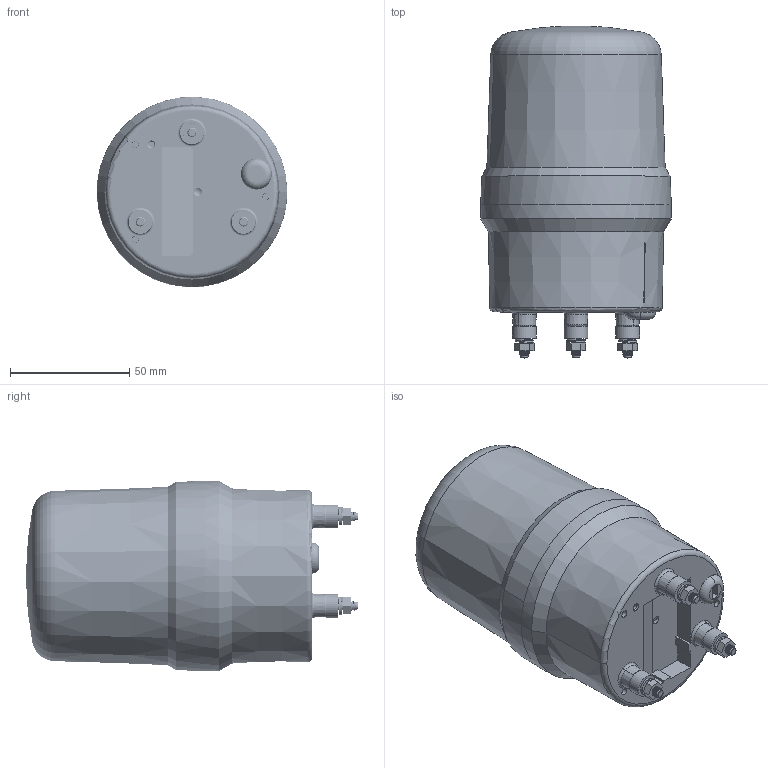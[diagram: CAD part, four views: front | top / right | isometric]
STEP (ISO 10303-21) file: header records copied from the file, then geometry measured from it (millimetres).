
FILE_DESCRIPTION((''),'2;1');
FILE_NAME('ASM0006_ASM','2016-06-17T',('Administrator'),(''),'PRO/ENGINEER BY PARAMETRIC TECHNOLOGY CORPORATION, 2012360','PRO/ENGINEER BY PARAMETRIC TECHNOLOGY CORPORATION, 2012360','');
FILE_SCHEMA(('CONFIG_CONTROL_DESIGN'));
Length unit declared in the file: millimetre
Products named in the file (3): BREP_WITH_VOIDS_132161; ASM0007_ASM; ASM0006_ASM
Assembly tree (2 placements, depth 3):
  ASM0006_ASM
    ASM0007_ASM
      BREP_WITH_VOIDS_132161
Bounding box: 80 x 139.29 x 79.87 mm (x, y, z)
Volume: 125194.4 mm3; surface area: 120998.8 mm2
Topology: 1 solids, 18 shells, 2698 faces, 8225 edges, 5561 vertices
Faces by surface type: cylinder 1112, plane 808, bspline 358, cone 211, extrusion 101, torus 86, sphere 22
Entity records: 136762 total; most frequent: CARTESIAN_POINT 65532, ORIENTED_EDGE 16406, DIRECTION 13199, EDGE_CURVE 8203, VERTEX_POINT 5559, AXIS2_PLACEMENT_3D 4959, VECTOR 3281, LINE 3180
